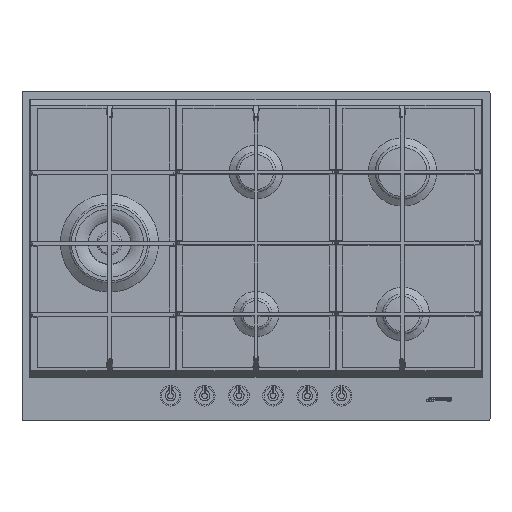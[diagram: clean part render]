
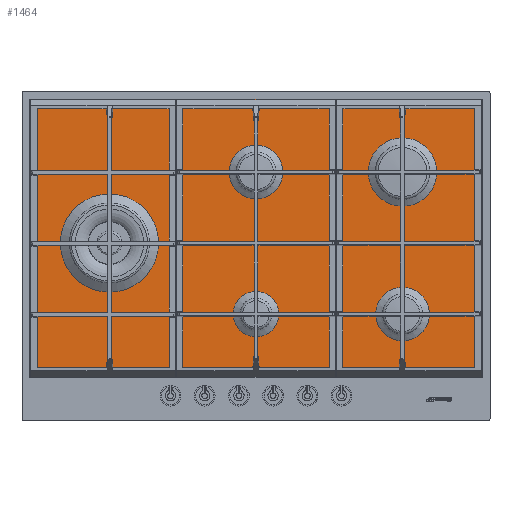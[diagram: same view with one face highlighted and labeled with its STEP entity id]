
A CAD part, top view. The second image highlights one B-rep face of the part: STEP entity #1464.
In plain terms, the highlighted planar face has unit normal (0, 0, 1).
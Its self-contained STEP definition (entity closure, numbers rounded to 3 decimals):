
#793=FACE_BOUND('',#3182,.T.);
#794=FACE_BOUND('',#3183,.T.);
#795=FACE_BOUND('',#3184,.T.);
#796=FACE_BOUND('',#3185,.T.);
#797=FACE_BOUND('',#3186,.T.);
#798=FACE_BOUND('',#3187,.T.);
#1074=CIRCLE('',#12233,25.);
#1075=CIRCLE('',#12234,25.);
#1076=CIRCLE('',#12235,25.);
#1077=CIRCLE('',#12236,25.);
#1078=CIRCLE('',#12237,25.);
#1464=ADVANCED_FACE('',(#793,#794,#795,#796,#797,#798),#2092,.F.);
#2092=PLANE('',#12238);
#3182=EDGE_LOOP('',(#4704));
#3183=EDGE_LOOP('',(#4705));
#3184=EDGE_LOOP('',(#4706));
#3185=EDGE_LOOP('',(#4707));
#3186=EDGE_LOOP('',(#4708));
#3187=EDGE_LOOP('',(#4709,#4710,#4711,#4712));
#4704=ORIENTED_EDGE('',*,*,#8477,.F.);
#4705=ORIENTED_EDGE('',*,*,#8478,.F.);
#4706=ORIENTED_EDGE('',*,*,#8479,.F.);
#4707=ORIENTED_EDGE('',*,*,#8480,.F.);
#4708=ORIENTED_EDGE('',*,*,#8481,.F.);
#4709=ORIENTED_EDGE('',*,*,#8470,.T.);
#4710=ORIENTED_EDGE('',*,*,#8476,.T.);
#4711=ORIENTED_EDGE('',*,*,#8474,.T.);
#4712=ORIENTED_EDGE('',*,*,#8472,.T.);
#7247=VERTEX_POINT('',#17179);
#7248=VERTEX_POINT('',#17181);
#7249=VERTEX_POINT('',#17185);
#7250=VERTEX_POINT('',#17189);
#7251=VERTEX_POINT('',#17195);
#7252=VERTEX_POINT('',#17197);
#7253=VERTEX_POINT('',#17199);
#7254=VERTEX_POINT('',#17201);
#7255=VERTEX_POINT('',#17203);
#8470=EDGE_CURVE('',#7248,#7247,#9944,.T.);
#8472=EDGE_CURVE('',#7249,#7248,#9946,.T.);
#8474=EDGE_CURVE('',#7250,#7249,#9948,.T.);
#8476=EDGE_CURVE('',#7247,#7250,#9950,.T.);
#8477=EDGE_CURVE('',#7251,#7251,#1074,.T.);
#8478=EDGE_CURVE('',#7252,#7252,#1075,.T.);
#8479=EDGE_CURVE('',#7253,#7253,#1076,.T.);
#8480=EDGE_CURVE('',#7254,#7254,#1077,.T.);
#8481=EDGE_CURVE('',#7255,#7255,#1078,.T.);
#9944=LINE('',#17180,#11126);
#9946=LINE('',#17184,#11128);
#9948=LINE('',#17188,#11130);
#9950=LINE('',#17192,#11132);
#11126=VECTOR('',#13886,1.);
#11128=VECTOR('',#13890,1.);
#11130=VECTOR('',#13894,1.);
#11132=VECTOR('',#13898,1.);
#12233=AXIS2_PLACEMENT_3D('',#17194,#13901,#13902);
#12234=AXIS2_PLACEMENT_3D('',#17196,#13903,#13904);
#12235=AXIS2_PLACEMENT_3D('',#17198,#13905,#13906);
#12236=AXIS2_PLACEMENT_3D('',#17200,#13907,#13908);
#12237=AXIS2_PLACEMENT_3D('',#17202,#13909,#13910);
#12238=AXIS2_PLACEMENT_3D('',#17204,#13911,#13912);
#13886=DIRECTION('',(0.,-1.,0.));
#13890=DIRECTION('',(-1.,0.,0.));
#13894=DIRECTION('',(0.,1.,0.));
#13898=DIRECTION('',(1.,0.,0.));
#13901=DIRECTION('',(0.,0.,1.));
#13902=DIRECTION('',(1.,0.,0.));
#13903=DIRECTION('',(0.,0.,1.));
#13904=DIRECTION('',(1.,0.,0.));
#13905=DIRECTION('',(0.,0.,1.));
#13906=DIRECTION('',(1.,0.,0.));
#13907=DIRECTION('',(0.,0.,1.));
#13908=DIRECTION('',(1.,0.,0.));
#13909=DIRECTION('',(0.,0.,1.));
#13910=DIRECTION('',(1.,0.,0.));
#13911=DIRECTION('',(0.,0.,-1.));
#13912=DIRECTION('',(-1.,0.,0.));
#17179=CARTESIAN_POINT('',(-350.5,-186.5,3.));
#17180=CARTESIAN_POINT('',(-350.5,-186.5,3.));
#17181=CARTESIAN_POINT('',(-350.5,244.5,3.));
#17184=CARTESIAN_POINT('',(-350.5,244.5,3.));
#17185=CARTESIAN_POINT('',(350.5,244.5,3.));
#17188=CARTESIAN_POINT('',(350.5,244.5,3.));
#17189=CARTESIAN_POINT('',(350.5,-186.5,3.));
#17192=CARTESIAN_POINT('',(350.5,-186.5,3.));
#17194=CARTESIAN_POINT('',(-227.,21.5,3.));
#17195=CARTESIAN_POINT('',(-202.,21.5,3.));
#17196=CARTESIAN_POINT('',(0.,-88.5,3.));
#17197=CARTESIAN_POINT('',(25.,-88.5,3.));
#17198=CARTESIAN_POINT('',(0.,131.5,3.));
#17199=CARTESIAN_POINT('',(25.,131.5,3.));
#17200=CARTESIAN_POINT('',(227.,-88.5,3.));
#17201=CARTESIAN_POINT('',(252.,-88.5,3.));
#17202=CARTESIAN_POINT('',(227.,131.5,3.));
#17203=CARTESIAN_POINT('',(252.,131.5,3.));
#17204=CARTESIAN_POINT('',(0.,1.5,3.));
